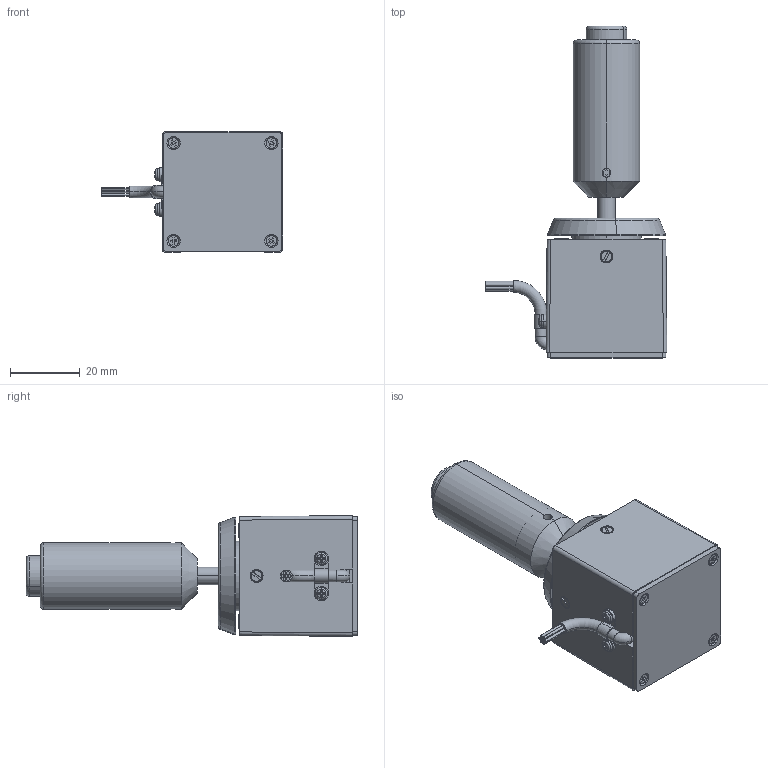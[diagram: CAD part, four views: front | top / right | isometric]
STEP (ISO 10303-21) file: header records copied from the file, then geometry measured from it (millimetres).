
FILE_DESCRIPTION (( 'STEP AP214' ), '1' );
FILE_NAME ('S30JEK-YQ-05R2.STEP', '2020-04-09T06:54:42', ( '' ), ( '' ), 'SwSTEP 2.0', 'SolidWorks 2019', '' );
FILE_SCHEMA (( 'AUTOMOTIVE_DESIGN' ));
Length unit declared in the file: millimetre
Products named in the file (1): S30JEK-YQ-05R2
Bounding box: 52.01 x 95 x 34.57 mm (x, y, z)
Volume: 30752.4 mm3; surface area: 26767.3 mm2
Topology: 1 solids, 21 shells, 1074 faces, 2721 edges, 1739 vertices
Faces by surface type: plane 512, cylinder 315, cone 219, torus 16, bspline 8, sphere 4
Entity records: 35055 total; most frequent: CARTESIAN_POINT 8406, DIRECTION 5510, ORIENTED_EDGE 5370, EDGE_CURVE 2685, AXIS2_PLACEMENT_3D 1991, VERTEX_POINT 1739, VECTOR 1528, LINE 1528
